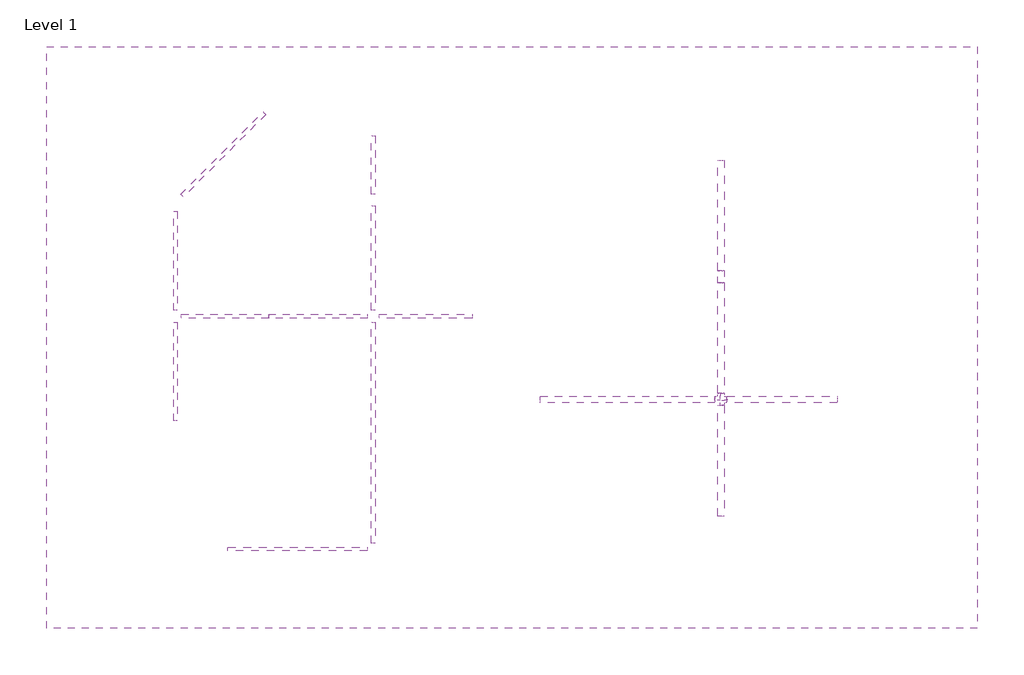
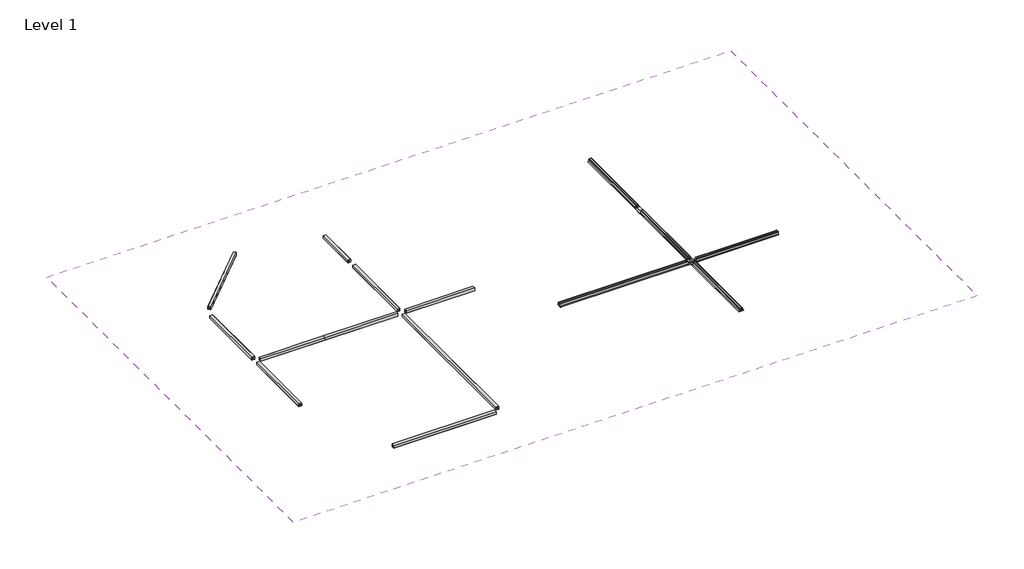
# One storey, incomplete: 17 proxies, 1 covering.
"""IFC4 building model written with IfcOpenShell, lengths in millimetres."""

from ifc_helpers import new_model, si_unit, origin, place, context, project, spatial, faceted_brep, transform, mapped, element, save
from components import end_cap_white_c79084be, end_cap_white_17c0ab39, track_system_black_29592c26, track_system_black_48cd3958, track_system_black_c651434b, track_system_black_dd8d3bd6, track_system_black_f11a83a5, track_system_black_2c894177, track_system_black_ada04166, track_system_black_ad7716e7, track_system_white_84014b1b, track_system_white_5602e649

model = new_model("IFC4")

# Units and contexts
model_context = context("Model", 3, world=origin())
ifc_project = project(units=[si_unit("LENGTHUNIT", "METRE", prefix="MILLI")], contexts=[model_context])

# Site, building, storey
site = spatial("IfcSite", under=ifc_project)
building = spatial("IfcBuilding", under=site)
storey = spatial("IfcBuildingStorey", under=building, Name="Level 1", Elevation=0.0)

# Proxies
placement = place(None, origin())
end_cap_white_shape = end_cap_white_c79084be(model_context)
element("IfcBuildingElementProxy", 1, Name="INDELAGUE-COVER_PLATE : END CAP - WHITE", ObjectType="INDELAGUE-COVER_PLATE : END CAP - WHITE", at=placement, inside=storey, context=model_context, shape_type="MappedRepresentation", body=[
    mapped(end_cap_white_shape, transform((8055.019843, 3966.4188613, 2000.0), x_axis=(1.0, 0.0, 0.0), y_axis=(0.0, -1.0, 0.0), z_axis=(0.0, 0.0, -1.0))),
])
end_cap_white_2_shape = end_cap_white_17c0ab39(model_context)
element("IfcBuildingElementProxy", 2, Name="INDELAGUE-COVER_PLATE_X : END CAP - WHITE", ObjectType="INDELAGUE-COVER_PLATE_X : END CAP - WHITE", at=placement, inside=storey, context=model_context, shape_type="MappedRepresentation", body=[
    mapped(end_cap_white_2_shape, transform((8055.019843, 2911.7788486, 2000.0), x_axis=(0.0, -1.0, 0.0), y_axis=(-1.0, 0.0, 0.0), z_axis=(0.0, 0.0, -1.0))),
])
track_system_black_shape = track_system_black_29592c26(model_context)
element("IfcBuildingElementProxy", 3, Name="Track System : BLACK", ObjectType="Track System : BLACK", at=placement, inside=storey, context=model_context, shape_type="MappedRepresentation", body=[
    mapped(track_system_black_shape, transform((4418.09374, 1626.4574563, 2000.0), x_axis=(1.0, 0.0, 0.0), y_axis=(0.0, -1.0, 0.0), z_axis=(0.0, 0.0, -1.0))),
])
track_system_black_2_shape = track_system_black_48cd3958(model_context)
element("IfcBuildingElementProxy", 4, Name="Track System : BLACK", ObjectType="Track System : BLACK", at=placement, inside=storey, context=model_context, shape_type="MappedRepresentation", body=[
    mapped(track_system_black_2_shape, transform((5068.09374, 4126.3879146, 2000.0), x_axis=(0.0, -1.0, 0.0), y_axis=(-1.0, 0.0, 0.0), z_axis=(0.0, 0.0, -1.0))),
])
track_system_black_3_shape = track_system_black_c651434b(model_context)
element("IfcBuildingElementProxy", 5, Name="Track System : BLACK", ObjectType="Track System : BLACK", at=placement, inside=storey, context=model_context, shape_type="MappedRepresentation", body=[
    mapped(track_system_black_3_shape, transform((4593.19374, 3626.3879146, 2000.0), x_axis=(1.0, 0.0, 0.0), y_axis=(0.0, -1.0, 0.0), z_axis=(0.0, 0.0, -1.0))),
])
element("IfcBuildingElementProxy", 6, Name="Track System : BLACK", ObjectType="Track System : BLACK", at=placement, inside=storey, context=model_context, shape_type="MappedRepresentation", body=[
    mapped(track_system_black_3_shape, transform((3368.29374, 3151.3879146, 2000.0), x_axis=(0.0, -1.0, 0.0), y_axis=(-1.0, 0.0, 0.0), z_axis=(0.0, 0.0, -1.0))),
])
element("IfcBuildingElementProxy", 7, Name="Track System : BLACK", ObjectType="Track System : BLACK", at=placement, inside=storey, context=model_context, shape_type="MappedRepresentation", body=[
    mapped(track_system_black_3_shape, transform((3368.29374, 4101.3879146, 2000.0), x_axis=(0.0, -1.0, 0.0), y_axis=(-1.0, 0.0, 0.0), z_axis=(0.0, 0.0, -1.0))),
])
track_system_black_4_shape = track_system_black_dd8d3bd6(model_context)
element("IfcBuildingElementProxy", 8, Name="Track System : BLACK", ObjectType="Track System : BLACK", at=placement, inside=storey, context=model_context, shape_type="MappedRepresentation", body=[
    mapped(track_system_black_4_shape, transform((5518.0241983, 3626.3879146, 2000.0), x_axis=(1.0, 0.0, 0.0), y_axis=(0.0, -1.0, 0.0), z_axis=(0.0, 0.0, -1.0))),
])
track_system_black_5_shape = track_system_black_f11a83a5(model_context)
element("IfcBuildingElementProxy", 9, Name="Track System : BLACK", ObjectType="Track System : BLACK", at=placement, inside=storey, context=model_context, shape_type="MappedRepresentation", body=[
    mapped(track_system_black_5_shape, transform((3793.19374, 3626.3879146, 2000.0), x_axis=(1.0, 0.0, 0.0), y_axis=(0.0, -1.0, 0.0), z_axis=(0.0, 0.0, -1.0))),
])
track_system_black_6_shape = track_system_black_2c894177(model_context)
element("IfcBuildingElementProxy", 10, Name="Track System : BLACK", ObjectType="Track System : BLACK", at=placement, inside=storey, context=model_context, shape_type="MappedRepresentation", body=[
    mapped(track_system_black_6_shape, transform((3778.4955006, 5016.7025684, 2000.0), x_axis=(0.7071067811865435, 0.7071067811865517, 0.0), y_axis=(0.7071067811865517, -0.7071067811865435, 0.0), z_axis=(0.0, 0.0, -1.0))),
])
track_system_black_7_shape = track_system_black_ada04166(model_context)
element("IfcBuildingElementProxy", 11, Name="Track System : BLACK", ObjectType="Track System : BLACK", at=placement, inside=storey, context=model_context, shape_type="MappedRepresentation", body=[
    mapped(track_system_black_7_shape, transform((5068.09374, 2626.4574563, 2000.0), x_axis=(0.0, -1.0, 0.0), y_axis=(-1.0, 0.0, 0.0), z_axis=(0.0, 0.0, -1.0))),
])
track_system_black_8_shape = track_system_black_ad7716e7(model_context)
element("IfcBuildingElementProxy", 12, Name="Track System : BLACK", ObjectType="Track System : BLACK", at=placement, inside=storey, context=model_context, shape_type="MappedRepresentation", body=[
    mapped(track_system_black_8_shape, transform((5068.09374, 4926.3879146, 2000.0), x_axis=(0.0, -1.0, 0.0), y_axis=(-1.0, 0.0, 0.0), z_axis=(0.0, 0.0, -1.0))),
])
track_system_white_shape = track_system_white_84014b1b(model_context)
element("IfcBuildingElementProxy", 13, Name="Track System : WHITE", ObjectType="Track System : WHITE", at=placement, inside=storey, context=model_context, shape_type="MappedRepresentation", body=[
    mapped(track_system_white_shape, transform((8055.019843, 2384.138836, 2000.0), x_axis=(0.0, -1.0, 0.0), y_axis=(-1.0, 0.0, 0.0), z_axis=(0.0, 0.0, -1.0))),
])
element("IfcBuildingElementProxy", 14, Name="Track System : WHITE", ObjectType="Track System : WHITE", at=placement, inside=storey, context=model_context, shape_type="MappedRepresentation", body=[
    mapped(track_system_white_shape, transform((8055.019843, 3439.4188613, 2000.0), x_axis=(0.0, -1.0, 0.0), y_axis=(-1.0, 0.0, 0.0), z_axis=(0.0, 0.0, -1.0))),
])
element("IfcBuildingElementProxy", 15, Name="Track System : WHITE", ObjectType="Track System : WHITE", at=placement, inside=storey, context=model_context, shape_type="MappedRepresentation", body=[
    mapped(track_system_white_shape, transform((8582.019843, 2911.7788486, 2000.0), x_axis=(-1.0, 0.0, 0.0), y_axis=(0.0, 1.0, 0.0), z_axis=(0.0, 0.0, -1.0))),
])
element("IfcBuildingElementProxy", 16, Name="Track System : WHITE", ObjectType="Track System : WHITE", at=placement, inside=storey, context=model_context, shape_type="MappedRepresentation", body=[
    mapped(track_system_white_shape, transform((8055.019843, 4493.4188613, 2000.0), x_axis=(0.0, -1.0, 0.0), y_axis=(-1.0, 0.0, 0.0), z_axis=(0.0, 0.0, -1.0))),
])
track_system_white_2_shape = track_system_white_5602e649(model_context)
element("IfcBuildingElementProxy", 17, Name="Track System : WHITE", ObjectType="Track System : WHITE", at=placement, inside=storey, context=model_context, shape_type="MappedRepresentation", body=[
    mapped(track_system_white_2_shape, transform((7253.019843, 2911.7788486, 2000.0), x_axis=(-1.0, 0.0, 0.0), y_axis=(0.0, 1.0, 0.0), z_axis=(0.0, 0.0, -1.0))),
])

# Covering
element("IfcCovering", 18, ObjectType="Ceiling 2", at=placement, inside=storey, context=model_context, shape_type="Brep", body=[
    faceted_brep([(10260.0755668, 5943.8287154, 2050.0), (2260.0755668, 5943.8287154, 2050.0), (2260.0755668, 943.8287154, 2050.0), (10260.0755668, 943.8287154, 2050.0), (2260.0755668, 5943.8287154, 2000.0), (10260.0755668, 5943.8287154, 2000.0), (10260.0755668, 943.8287154, 2000.0), (2260.0755668, 943.8287154, 2000.0), (5060.09374, 4576.3879146, 2000.0), (5060.09374, 3676.3879146, 2000.0), (5076.09374, 3676.3879146, 2000.0), (5076.09374, 4576.3879146, 2000.0), (5018.19374, 3618.3879146, 2000.0), (5018.19374, 3634.3879146, 2000.0), (3418.19374, 3634.3879146, 2000.0), (3418.19374, 3618.3879146, 2000.0), (5060.09374, 3576.4574563, 2000.0), (5060.09374, 1676.4574563, 2000.0), (5076.09374, 1676.4574563, 2000.0), (5076.09374, 3576.4574563, 2000.0), (5918.0241983, 3618.3879146, 2000.0), (5918.0241983, 3634.3879146, 2000.0), (5118.0241983, 3634.3879146, 2000.0), (5118.0241983, 3618.3879146, 2000.0), (3360.29374, 2726.3879146, 2000.0), (3376.29374, 2726.3879146, 2000.0), (3376.29374, 3576.3879146, 2000.0), (3360.29374, 3576.3879146, 2000.0), (3360.29374, 3676.3879146, 2000.0), (3376.29374, 3676.3879146, 2000.0), (3376.29374, 4526.3879146, 2000.0), (3360.29374, 4526.3879146, 2000.0), (4137.7057455, 5364.5991048, 2000.0), (4126.392037, 5375.9128133, 2000.0), (3419.2852558, 4668.8060321, 2000.0), (3430.5989643, 4657.4923236, 2000.0), (8047.019843, 1909.138836, 2000.0), (8063.019843, 1909.138836, 2000.0), (8063.019843, 2859.138836, 2000.0), (8047.019843, 2859.138836, 2000.0), (8047.019843, 2964.4188613, 2000.0), (8063.019843, 2964.4188613, 2000.0), (8063.019843, 3914.4188613, 2000.0), (8047.019843, 3914.4188613, 2000.0), (6503.019843, 2919.7788486, 2000.0), (6503.019843, 2903.7788486, 2000.0), (8003.019843, 2903.7788486, 2000.0), (8003.019843, 2919.7788486, 2000.0), (8107.019843, 2919.7788486, 2000.0), (8107.019843, 2903.7788486, 2000.0), (9057.019843, 2903.7788486, 2000.0), (9057.019843, 2919.7788486, 2000.0), (8047.019843, 4018.4188613, 2000.0), (8063.019843, 4018.4188613, 2000.0), (8063.019843, 4968.4188613, 2000.0), (8047.019843, 4968.4188613, 2000.0), (5060.09374, 4676.3879146, 2000.0), (5076.09374, 4676.3879146, 2000.0), (5076.09374, 5176.3879146, 2000.0), (5060.09374, 5176.3879146, 2000.0), (5076.09374, 3676.3879146, 2033.0), (5060.09374, 3676.3879146, 2033.0), (5060.09374, 4576.3879146, 2033.0), (5076.09374, 4576.3879146, 2033.0), (5018.19374, 3634.3879146, 2033.0), (5018.19374, 3618.3879146, 2033.0), (3418.19374, 3618.3879146, 2033.0), (3418.19374, 3634.3879146, 2033.0), (5076.09374, 1676.4574563, 2033.0), (5060.09374, 1676.4574563, 2033.0), (5060.09374, 3576.4574563, 2033.0), (5076.09374, 3576.4574563, 2033.0), (5918.0241983, 3634.3879146, 2033.0), (5918.0241983, 3618.3879146, 2033.0), (5118.0241983, 3618.3879146, 2033.0), (5118.0241983, 3634.3879146, 2033.0), (3376.29374, 2726.3879146, 2033.0), (3360.29374, 2726.3879146, 2033.0), (3360.29374, 3576.3879146, 2033.0), (3376.29374, 3576.3879146, 2033.0), (3376.29374, 3676.3879146, 2033.0), (3360.29374, 3676.3879146, 2033.0), (3360.29374, 4526.3879146, 2033.0), (3376.29374, 4526.3879146, 2033.0), (4126.392037, 5375.9128133, 2033.0), (4137.7057455, 5364.5991048, 2033.0), (3430.5989643, 4657.4923236, 2033.0), (3419.2852558, 4668.8060321, 2033.0), (8063.019843, 1909.138836, 2033.0), (8047.019843, 1909.138836, 2033.0), (8047.019843, 2859.138836, 2033.0), (8063.019843, 2859.138836, 2033.0), (8063.019843, 2964.4188613, 2033.0), (8047.019843, 2964.4188613, 2033.0), (8047.019843, 3914.4188613, 2033.0), (8063.019843, 3914.4188613, 2033.0), (6503.019843, 2903.7788486, 2033.0), (6503.019843, 2919.7788486, 2033.0), (8003.019843, 2919.7788486, 2033.0), (8003.019843, 2903.7788486, 2033.0), (8107.019843, 2903.7788486, 2033.0), (8107.019843, 2919.7788486, 2033.0), (9057.019843, 2919.7788486, 2033.0), (9057.019843, 2903.7788486, 2033.0), (8063.019843, 4018.4188613, 2033.0), (8047.019843, 4018.4188613, 2033.0), (8047.019843, 4968.4188613, 2033.0), (8063.019843, 4968.4188613, 2033.0), (5076.09374, 4676.3879146, 2033.0), (5060.09374, 4676.3879146, 2033.0), (5060.09374, 5176.3879146, 2033.0), (5076.09374, 5176.3879146, 2033.0)], [[[0, 1, 2, 3]], [[4, 5, 6, 7], [8, 9, 10, 11], [12, 13, 14, 15], [16, 17, 18, 19], [20, 21, 22, 23], [24, 25, 26, 27], [28, 29, 30, 31], [32, 33, 34, 35], [36, 37, 38, 39], [40, 41, 42, 43], [44, 45, 46, 47], [48, 49, 50, 51], [52, 53, 54, 55], [56, 57, 58, 59]], [[1, 0, 5, 4]], [[2, 1, 4, 7]], [[3, 2, 7, 6]], [[0, 3, 6, 5]], [[60, 61, 62, 63]], [[61, 60, 10, 9]], [[62, 61, 9, 8]], [[63, 62, 8, 11]], [[60, 63, 11, 10]], [[64, 65, 66, 67]], [[65, 64, 13, 12]], [[65, 12, 15, 66]], [[13, 64, 67, 14]], [[68, 69, 70, 71]], [[69, 68, 18, 17]], [[70, 69, 17, 16]], [[71, 70, 16, 19]], [[68, 71, 19, 18]], [[72, 73, 74, 75]], [[73, 72, 21, 20]], [[74, 73, 20, 23]], [[75, 74, 23, 22]], [[72, 75, 22, 21]], [[67, 66, 15, 14]], [[76, 77, 78, 79]], [[77, 76, 25, 24]], [[78, 77, 24, 27]], [[79, 78, 27, 26]], [[76, 79, 26, 25]], [[80, 81, 82, 83]], [[81, 80, 29, 28]], [[82, 81, 28, 31]], [[83, 82, 31, 30]], [[80, 83, 30, 29]], [[84, 85, 86, 87]], [[85, 84, 33, 32]], [[86, 85, 32, 35]], [[87, 86, 35, 34]], [[84, 87, 34, 33]], [[88, 89, 90, 91]], [[89, 88, 37, 36]], [[90, 89, 36, 39]], [[91, 90, 39, 38]], [[88, 91, 38, 37]], [[92, 93, 94, 95]], [[93, 92, 41, 40]], [[94, 93, 40, 43]], [[95, 94, 43, 42]], [[92, 95, 42, 41]], [[96, 97, 98, 99]], [[97, 96, 45, 44]], [[98, 97, 44, 47]], [[99, 98, 47, 46]], [[96, 99, 46, 45]], [[100, 101, 102, 103]], [[101, 100, 49, 48]], [[102, 101, 48, 51]], [[103, 102, 51, 50]], [[100, 103, 50, 49]], [[104, 105, 106, 107]], [[105, 104, 53, 52]], [[106, 105, 52, 55]], [[107, 106, 55, 54]], [[104, 107, 54, 53]], [[108, 109, 110, 111]], [[109, 108, 57, 56]], [[110, 109, 56, 59]], [[111, 110, 59, 58]], [[108, 111, 58, 57]]]),
])

save(model, "model.ifc")
